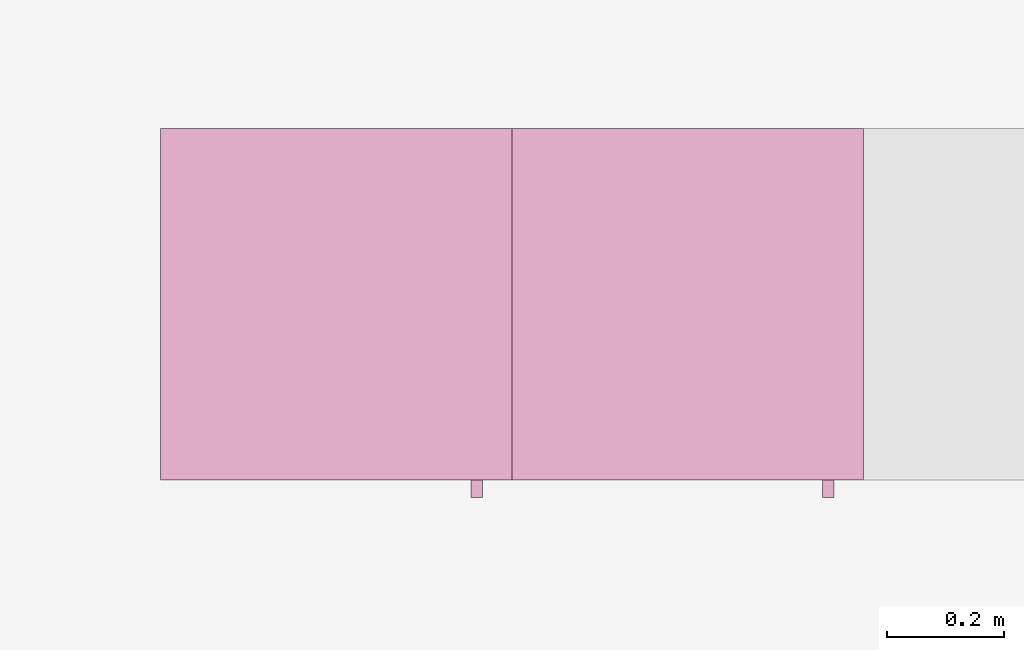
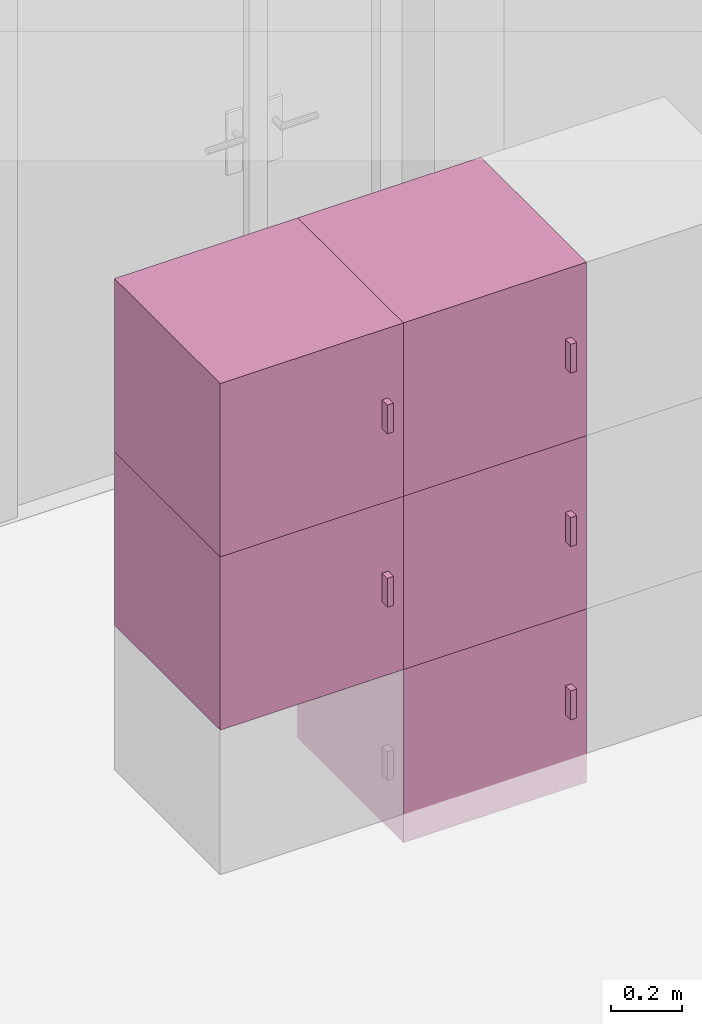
"""IFC4 building model written with IfcOpenShell, lengths in metres."""

from ifc_helpers import new_model, entity, si_unit, converted_unit, derived_unit, frame, origin, place, context, subcontext, project, spatial, faceted_brep, element, save


model = new_model("IFC4")

# Units and contexts
model_context = context("Model", 3, precision=1e-05, world=origin())
body_context = subcontext(model_context, "Body", "Model", "MODEL_VIEW")
ifc_project = project(units=[si_unit("LENGTHUNIT", "METRE"), si_unit("AREAUNIT", "SQUARE_METRE"), si_unit("VOLUMEUNIT", "CUBIC_METRE"), si_unit("MASSUNIT", "GRAM", prefix="KILO"), converted_unit("PLANEANGLEUNIT", "DEGREE", entity("IfcPlaneAngleMeasure", 0.0174532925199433), si_unit("PLANEANGLEUNIT", "RADIAN"), dimensions=[0, 0, 0, 0, 0, 0, 0]), derived_unit("THERMALTRANSMITTANCEUNIT", [(si_unit("POWERUNIT", "WATT"), 1), (si_unit("THERMODYNAMICTEMPERATUREUNIT", "KELVIN"), -1), (si_unit("LENGTHUNIT", "METRE"), -2)]), derived_unit("VOLUMETRICFLOWRATEUNIT", [(si_unit("LENGTHUNIT", "METRE"), 3), (converted_unit("TIMEUNIT", "hour", entity("IfcTimeMeasure", 3600.0), si_unit("TIMEUNIT", "SECOND"), dimensions=[0, 0, 1, 0, 0, 0, 0]), -1), (si_unit("LENGTHUNIT", "METRE"), -1)])], contexts=[model_context])

# Building, storeys
building_placement = place(None, origin())
building = spatial("IfcBuilding", under=ifc_project, at=building_placement, Name="HABITATGE PLURIFAMILIAR", CompositionType="ELEMENT")
storey_1_placement = place(building_placement, frame((0.0, 0.0, 15.28)))
storey_1 = spatial("IfcBuildingStorey", under=building, at=storey_1_placement, Name="PLANTA QUARTA", CompositionType="ELEMENT", Elevation=15.28)
storey_2_placement = place(storey_1_placement, frame((0.0, 0.0, 12.27)))
storey_2 = spatial("IfcBuildingStorey", under=storey_1, at=storey_2_placement, Name="NOU", CompositionType="PARTIAL")

# Furniture
furniture_1_placement = place(storey_2_placement, frame((406.462081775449, 21.5873137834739, -11.77)))
element("IfcFurniture", 1, at=furniture_1_placement, inside=storey_2, Name="Armai 60x60x60_P4", context=body_context, shape_type="Brep", body=[
    faceted_brep([(0.600000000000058, 0.0300000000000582, 0.02), (0.600000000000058, 0.0300000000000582, 0.0), (0.0, 0.0300000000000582, 0.0), (0.0, 0.0300000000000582, 0.02), (0.0, 0.630000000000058, 0.0), (0.0, 0.630000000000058, 0.02), (0.600000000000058, 0.630000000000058, 0.0), (0.600000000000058, 0.630000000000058, 0.02)], [[[0, 1, 2, 3]], [[3, 2, 4, 5]], [[5, 4, 6, 7]], [[7, 6, 1, 0]], [[0, 3, 5, 7]], [[1, 6, 4, 2]]], orient=[[False], [False], [False], [False], [False], [False]]),
    faceted_brep([(0.02, 0.63, 0.58), (0.02, 0.61, 0.58), (0.02, 0.61, 0.02), (0.02, 0.63, 0.02), (0.58, 0.61, 0.02), (0.58, 0.63, 0.02), (0.58, 0.61, 0.58), (0.58, 0.63, 0.58)], [[[0, 1, 2, 3]], [[3, 2, 4, 5]], [[5, 4, 6, 7]], [[7, 6, 1, 0]], [[0, 3, 5, 7]], [[1, 6, 4, 2]]], orient=[[False], [False], [False], [False], [False], [False]]),
    faceted_brep([(0.58, 0.0300000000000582, 0.58), (0.6, 0.0300000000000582, 0.58), (0.6, 0.0300000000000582, 0.02), (0.58, 0.0300000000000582, 0.02), (0.6, 0.630000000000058, 0.02), (0.58, 0.630000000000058, 0.02), (0.6, 0.630000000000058, 0.58), (0.58, 0.630000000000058, 0.58)], [[[0, 1, 2, 3]], [[3, 2, 4, 5]], [[5, 4, 6, 7]], [[7, 6, 1, 0]], [[0, 3, 5, 7]], [[1, 6, 4, 2]]], orient=[[False], [False], [False], [False], [False], [False]]),
    faceted_brep([(0.600000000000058, 0.0500000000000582, 0.58), (0.600000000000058, 0.0300000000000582, 0.58), (0.600000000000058, 0.0300000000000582, 0.02), (0.600000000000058, 0.0500000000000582, 0.02), (0.580000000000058, 0.0300000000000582, 0.02), (0.580000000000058, 0.0500000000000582, 0.02), (0.580000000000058, 0.0300000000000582, 0.58), (0.580000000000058, 0.0500000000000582, 0.58)], [[[0, 1, 2, 3]], [[3, 2, 4, 5]], [[5, 4, 6, 7]], [[7, 6, 1, 0]], [[0, 3, 5, 7]], [[1, 6, 4, 2]]], orient=[[False], [False], [False], [False], [False], [False]]),
    faceted_brep([(0.0, 0.0300000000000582, 0.58), (0.0200000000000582, 0.0300000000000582, 0.58), (0.0200000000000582, 0.0300000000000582, 0.02), (0.0, 0.0300000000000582, 0.02), (0.0200000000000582, 0.630000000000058, 0.02), (0.0, 0.630000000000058, 0.02), (0.0200000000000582, 0.630000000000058, 0.58), (0.0, 0.630000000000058, 0.58)], [[[0, 1, 2, 3]], [[3, 2, 4, 5]], [[5, 4, 6, 7]], [[7, 6, 1, 0]], [[0, 3, 5, 7]], [[1, 6, 4, 2]]], orient=[[False], [False], [False], [False], [False], [False]]),
    faceted_brep([(0.6, 0.03, 0.6), (0.6, 0.03, 0.58), (0.0, 0.03, 0.58), (0.0, 0.03, 0.6), (0.0, 0.63, 0.58), (0.0, 0.63, 0.6), (0.6, 0.63, 0.58), (0.6, 0.63, 0.6)], [[[0, 1, 2, 3]], [[3, 2, 4, 5]], [[5, 4, 6, 7]], [[7, 6, 1, 0]], [[0, 3, 5, 7]], [[1, 6, 4, 2]]], orient=[[False], [False], [False], [False], [False], [False]]),
    faceted_brep([(0.02, 0.05, 0.58), (0.02, 0.03, 0.58), (0.02, 0.03, 0.02), (0.02, 0.05, 0.02), (0.580000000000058, 0.03, 0.02), (0.580000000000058, 0.05, 0.02), (0.580000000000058, 0.03, 0.58), (0.580000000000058, 0.05, 0.58)], [[[0, 1, 2, 3]], [[3, 2, 4, 5]], [[5, 4, 6, 7]], [[7, 6, 1, 0]], [[0, 3, 5, 7]], [[1, 6, 4, 2]]], orient=[[False], [False], [False], [False], [False], [False]]),
    faceted_brep([(0.53, 0.03, 0.358064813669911), (0.53, 0.0, 0.358064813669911), (0.53, 0.0, 0.258064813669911), (0.53, 0.03, 0.258064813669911), (0.55, 0.0, 0.258064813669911), (0.55, 0.03, 0.258064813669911), (0.55, 0.0, 0.358064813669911), (0.55, 0.03, 0.358064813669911)], [[[0, 1, 2, 3]], [[3, 2, 4, 5]], [[5, 4, 6, 7]], [[7, 6, 1, 0]], [[0, 3, 5, 7]], [[1, 6, 4, 2]]], orient=[[False], [False], [False], [False], [False], [False]]),
])
furniture_2_placement = place(storey_2_placement, frame((405.862081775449, 21.5873137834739, -11.77)))
element("IfcFurniture", 2, at=furniture_2_placement, inside=storey_2, Name="Armai 60x60x60_P4", context=body_context, shape_type="Brep", body=[
    faceted_brep([(0.600000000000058, 0.0300000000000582, 0.02), (0.600000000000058, 0.0300000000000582, 0.0), (0.0, 0.0300000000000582, 0.0), (0.0, 0.0300000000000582, 0.02), (0.0, 0.630000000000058, 0.0), (0.0, 0.630000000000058, 0.02), (0.600000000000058, 0.630000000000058, 0.0), (0.600000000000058, 0.630000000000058, 0.02)], [[[0, 1, 2, 3]], [[3, 2, 4, 5]], [[5, 4, 6, 7]], [[7, 6, 1, 0]], [[0, 3, 5, 7]], [[1, 6, 4, 2]]], orient=[[False], [False], [False], [False], [False], [False]]),
    faceted_brep([(0.02, 0.63, 0.58), (0.02, 0.61, 0.58), (0.02, 0.61, 0.02), (0.02, 0.63, 0.02), (0.58, 0.61, 0.02), (0.58, 0.63, 0.02), (0.58, 0.61, 0.58), (0.58, 0.63, 0.58)], [[[0, 1, 2, 3]], [[3, 2, 4, 5]], [[5, 4, 6, 7]], [[7, 6, 1, 0]], [[0, 3, 5, 7]], [[1, 6, 4, 2]]], orient=[[False], [False], [False], [False], [False], [False]]),
    faceted_brep([(0.58, 0.0300000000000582, 0.58), (0.6, 0.0300000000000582, 0.58), (0.6, 0.0300000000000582, 0.02), (0.58, 0.0300000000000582, 0.02), (0.6, 0.630000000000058, 0.02), (0.58, 0.630000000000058, 0.02), (0.6, 0.630000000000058, 0.58), (0.58, 0.630000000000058, 0.58)], [[[0, 1, 2, 3]], [[3, 2, 4, 5]], [[5, 4, 6, 7]], [[7, 6, 1, 0]], [[0, 3, 5, 7]], [[1, 6, 4, 2]]], orient=[[False], [False], [False], [False], [False], [False]]),
    faceted_brep([(0.600000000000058, 0.0500000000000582, 0.58), (0.600000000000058, 0.0300000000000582, 0.58), (0.600000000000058, 0.0300000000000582, 0.02), (0.600000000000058, 0.0500000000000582, 0.02), (0.580000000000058, 0.0300000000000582, 0.02), (0.580000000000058, 0.0500000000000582, 0.02), (0.580000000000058, 0.0300000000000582, 0.58), (0.580000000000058, 0.0500000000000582, 0.58)], [[[0, 1, 2, 3]], [[3, 2, 4, 5]], [[5, 4, 6, 7]], [[7, 6, 1, 0]], [[0, 3, 5, 7]], [[1, 6, 4, 2]]], orient=[[False], [False], [False], [False], [False], [False]]),
    faceted_brep([(0.0, 0.0300000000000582, 0.58), (0.0200000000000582, 0.0300000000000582, 0.58), (0.0200000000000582, 0.0300000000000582, 0.02), (0.0, 0.0300000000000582, 0.02), (0.0200000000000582, 0.630000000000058, 0.02), (0.0, 0.630000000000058, 0.02), (0.0200000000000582, 0.630000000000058, 0.58), (0.0, 0.630000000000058, 0.58)], [[[0, 1, 2, 3]], [[3, 2, 4, 5]], [[5, 4, 6, 7]], [[7, 6, 1, 0]], [[0, 3, 5, 7]], [[1, 6, 4, 2]]], orient=[[False], [False], [False], [False], [False], [False]]),
    faceted_brep([(0.6, 0.03, 0.6), (0.6, 0.03, 0.58), (0.0, 0.03, 0.58), (0.0, 0.03, 0.6), (0.0, 0.63, 0.58), (0.0, 0.63, 0.6), (0.6, 0.63, 0.58), (0.6, 0.63, 0.6)], [[[0, 1, 2, 3]], [[3, 2, 4, 5]], [[5, 4, 6, 7]], [[7, 6, 1, 0]], [[0, 3, 5, 7]], [[1, 6, 4, 2]]], orient=[[False], [False], [False], [False], [False], [False]]),
    faceted_brep([(0.02, 0.05, 0.58), (0.02, 0.03, 0.58), (0.02, 0.03, 0.02), (0.02, 0.05, 0.02), (0.580000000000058, 0.03, 0.02), (0.580000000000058, 0.05, 0.02), (0.580000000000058, 0.03, 0.58), (0.580000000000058, 0.05, 0.58)], [[[0, 1, 2, 3]], [[3, 2, 4, 5]], [[5, 4, 6, 7]], [[7, 6, 1, 0]], [[0, 3, 5, 7]], [[1, 6, 4, 2]]], orient=[[False], [False], [False], [False], [False], [False]]),
    faceted_brep([(0.53, 0.03, 0.358064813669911), (0.53, 0.0, 0.358064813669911), (0.53, 0.0, 0.258064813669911), (0.53, 0.03, 0.258064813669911), (0.55, 0.0, 0.258064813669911), (0.55, 0.03, 0.258064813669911), (0.55, 0.0, 0.358064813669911), (0.55, 0.03, 0.358064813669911)], [[[0, 1, 2, 3]], [[3, 2, 4, 5]], [[5, 4, 6, 7]], [[7, 6, 1, 0]], [[0, 3, 5, 7]], [[1, 6, 4, 2]]], orient=[[False], [False], [False], [False], [False], [False]]),
])
furniture_3_placement = place(storey_2_placement, frame((406.462081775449, 21.5873137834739, -11.17)))
element("IfcFurniture", 3, at=furniture_3_placement, inside=storey_2, Name="Armai 60x60x60_P4", context=body_context, shape_type="Brep", body=[
    faceted_brep([(0.600000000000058, 0.0300000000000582, 0.02), (0.600000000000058, 0.0300000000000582, 0.0), (0.0, 0.0300000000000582, 0.0), (0.0, 0.0300000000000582, 0.02), (0.0, 0.630000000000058, 0.0), (0.0, 0.630000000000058, 0.02), (0.600000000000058, 0.630000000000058, 0.0), (0.600000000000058, 0.630000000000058, 0.02)], [[[0, 1, 2, 3]], [[3, 2, 4, 5]], [[5, 4, 6, 7]], [[7, 6, 1, 0]], [[0, 3, 5, 7]], [[1, 6, 4, 2]]], orient=[[False], [False], [False], [False], [False], [False]]),
    faceted_brep([(0.02, 0.63, 0.58), (0.02, 0.61, 0.58), (0.02, 0.61, 0.02), (0.02, 0.63, 0.02), (0.58, 0.61, 0.02), (0.58, 0.63, 0.02), (0.58, 0.61, 0.58), (0.58, 0.63, 0.58)], [[[0, 1, 2, 3]], [[3, 2, 4, 5]], [[5, 4, 6, 7]], [[7, 6, 1, 0]], [[0, 3, 5, 7]], [[1, 6, 4, 2]]], orient=[[False], [False], [False], [False], [False], [False]]),
    faceted_brep([(0.58, 0.0300000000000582, 0.58), (0.6, 0.0300000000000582, 0.58), (0.6, 0.0300000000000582, 0.02), (0.58, 0.0300000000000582, 0.02), (0.6, 0.630000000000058, 0.02), (0.58, 0.630000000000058, 0.02), (0.6, 0.630000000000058, 0.58), (0.58, 0.630000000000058, 0.58)], [[[0, 1, 2, 3]], [[3, 2, 4, 5]], [[5, 4, 6, 7]], [[7, 6, 1, 0]], [[0, 3, 5, 7]], [[1, 6, 4, 2]]], orient=[[False], [False], [False], [False], [False], [False]]),
    faceted_brep([(0.600000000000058, 0.0500000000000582, 0.58), (0.600000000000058, 0.0300000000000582, 0.58), (0.600000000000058, 0.0300000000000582, 0.02), (0.600000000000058, 0.0500000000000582, 0.02), (0.580000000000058, 0.0300000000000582, 0.02), (0.580000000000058, 0.0500000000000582, 0.02), (0.580000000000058, 0.0300000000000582, 0.58), (0.580000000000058, 0.0500000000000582, 0.58)], [[[0, 1, 2, 3]], [[3, 2, 4, 5]], [[5, 4, 6, 7]], [[7, 6, 1, 0]], [[0, 3, 5, 7]], [[1, 6, 4, 2]]], orient=[[False], [False], [False], [False], [False], [False]]),
    faceted_brep([(0.0, 0.0300000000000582, 0.58), (0.0200000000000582, 0.0300000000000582, 0.58), (0.0200000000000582, 0.0300000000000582, 0.02), (0.0, 0.0300000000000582, 0.02), (0.0200000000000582, 0.630000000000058, 0.02), (0.0, 0.630000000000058, 0.02), (0.0200000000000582, 0.630000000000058, 0.58), (0.0, 0.630000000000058, 0.58)], [[[0, 1, 2, 3]], [[3, 2, 4, 5]], [[5, 4, 6, 7]], [[7, 6, 1, 0]], [[0, 3, 5, 7]], [[1, 6, 4, 2]]], orient=[[False], [False], [False], [False], [False], [False]]),
    faceted_brep([(0.6, 0.03, 0.6), (0.6, 0.03, 0.58), (0.0, 0.03, 0.58), (0.0, 0.03, 0.6), (0.0, 0.63, 0.58), (0.0, 0.63, 0.6), (0.6, 0.63, 0.58), (0.6, 0.63, 0.6)], [[[0, 1, 2, 3]], [[3, 2, 4, 5]], [[5, 4, 6, 7]], [[7, 6, 1, 0]], [[0, 3, 5, 7]], [[1, 6, 4, 2]]], orient=[[False], [False], [False], [False], [False], [False]]),
    faceted_brep([(0.02, 0.05, 0.58), (0.02, 0.03, 0.58), (0.02, 0.03, 0.02), (0.02, 0.05, 0.02), (0.580000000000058, 0.03, 0.02), (0.580000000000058, 0.05, 0.02), (0.580000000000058, 0.03, 0.58), (0.580000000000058, 0.05, 0.58)], [[[0, 1, 2, 3]], [[3, 2, 4, 5]], [[5, 4, 6, 7]], [[7, 6, 1, 0]], [[0, 3, 5, 7]], [[1, 6, 4, 2]]], orient=[[False], [False], [False], [False], [False], [False]]),
    faceted_brep([(0.53, 0.03, 0.358064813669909), (0.53, 0.0, 0.358064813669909), (0.53, 0.0, 0.258064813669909), (0.53, 0.03, 0.258064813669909), (0.55, 0.0, 0.258064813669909), (0.55, 0.03, 0.258064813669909), (0.55, 0.0, 0.358064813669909), (0.55, 0.03, 0.358064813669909)], [[[0, 1, 2, 3]], [[3, 2, 4, 5]], [[5, 4, 6, 7]], [[7, 6, 1, 0]], [[0, 3, 5, 7]], [[1, 6, 4, 2]]], orient=[[False], [False], [False], [False], [False], [False]]),
])
furniture_4_placement = place(storey_2_placement, frame((405.862081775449, 21.5873137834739, -11.17)))
element("IfcFurniture", 4, at=furniture_4_placement, inside=storey_2, Name="Armai 60x60x60_P4", context=body_context, shape_type="Brep", body=[
    faceted_brep([(0.600000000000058, 0.0300000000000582, 0.02), (0.600000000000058, 0.0300000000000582, 0.0), (0.0, 0.0300000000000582, 0.0), (0.0, 0.0300000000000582, 0.02), (0.0, 0.630000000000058, 0.0), (0.0, 0.630000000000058, 0.02), (0.600000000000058, 0.630000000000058, 0.0), (0.600000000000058, 0.630000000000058, 0.02)], [[[0, 1, 2, 3]], [[3, 2, 4, 5]], [[5, 4, 6, 7]], [[7, 6, 1, 0]], [[0, 3, 5, 7]], [[1, 6, 4, 2]]], orient=[[False], [False], [False], [False], [False], [False]]),
    faceted_brep([(0.02, 0.63, 0.58), (0.02, 0.61, 0.58), (0.02, 0.61, 0.02), (0.02, 0.63, 0.02), (0.58, 0.61, 0.02), (0.58, 0.63, 0.02), (0.58, 0.61, 0.58), (0.58, 0.63, 0.58)], [[[0, 1, 2, 3]], [[3, 2, 4, 5]], [[5, 4, 6, 7]], [[7, 6, 1, 0]], [[0, 3, 5, 7]], [[1, 6, 4, 2]]], orient=[[False], [False], [False], [False], [False], [False]]),
    faceted_brep([(0.58, 0.0300000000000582, 0.58), (0.6, 0.0300000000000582, 0.58), (0.6, 0.0300000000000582, 0.02), (0.58, 0.0300000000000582, 0.02), (0.6, 0.630000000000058, 0.02), (0.58, 0.630000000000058, 0.02), (0.6, 0.630000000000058, 0.58), (0.58, 0.630000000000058, 0.58)], [[[0, 1, 2, 3]], [[3, 2, 4, 5]], [[5, 4, 6, 7]], [[7, 6, 1, 0]], [[0, 3, 5, 7]], [[1, 6, 4, 2]]], orient=[[False], [False], [False], [False], [False], [False]]),
    faceted_brep([(0.600000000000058, 0.0500000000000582, 0.58), (0.600000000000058, 0.0300000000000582, 0.58), (0.600000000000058, 0.0300000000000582, 0.02), (0.600000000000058, 0.0500000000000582, 0.02), (0.580000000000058, 0.0300000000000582, 0.02), (0.580000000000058, 0.0500000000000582, 0.02), (0.580000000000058, 0.0300000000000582, 0.58), (0.580000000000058, 0.0500000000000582, 0.58)], [[[0, 1, 2, 3]], [[3, 2, 4, 5]], [[5, 4, 6, 7]], [[7, 6, 1, 0]], [[0, 3, 5, 7]], [[1, 6, 4, 2]]], orient=[[False], [False], [False], [False], [False], [False]]),
    faceted_brep([(0.0, 0.0300000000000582, 0.58), (0.0200000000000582, 0.0300000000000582, 0.58), (0.0200000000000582, 0.0300000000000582, 0.02), (0.0, 0.0300000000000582, 0.02), (0.0200000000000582, 0.630000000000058, 0.02), (0.0, 0.630000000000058, 0.02), (0.0200000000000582, 0.630000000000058, 0.58), (0.0, 0.630000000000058, 0.58)], [[[0, 1, 2, 3]], [[3, 2, 4, 5]], [[5, 4, 6, 7]], [[7, 6, 1, 0]], [[0, 3, 5, 7]], [[1, 6, 4, 2]]], orient=[[False], [False], [False], [False], [False], [False]]),
    faceted_brep([(0.6, 0.03, 0.6), (0.6, 0.03, 0.58), (0.0, 0.03, 0.58), (0.0, 0.03, 0.6), (0.0, 0.63, 0.58), (0.0, 0.63, 0.6), (0.6, 0.63, 0.58), (0.6, 0.63, 0.6)], [[[0, 1, 2, 3]], [[3, 2, 4, 5]], [[5, 4, 6, 7]], [[7, 6, 1, 0]], [[0, 3, 5, 7]], [[1, 6, 4, 2]]], orient=[[False], [False], [False], [False], [False], [False]]),
    faceted_brep([(0.02, 0.05, 0.58), (0.02, 0.03, 0.58), (0.02, 0.03, 0.02), (0.02, 0.05, 0.02), (0.580000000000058, 0.03, 0.02), (0.580000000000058, 0.05, 0.02), (0.580000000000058, 0.03, 0.58), (0.580000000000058, 0.05, 0.58)], [[[0, 1, 2, 3]], [[3, 2, 4, 5]], [[5, 4, 6, 7]], [[7, 6, 1, 0]], [[0, 3, 5, 7]], [[1, 6, 4, 2]]], orient=[[False], [False], [False], [False], [False], [False]]),
    faceted_brep([(0.53, 0.03, 0.358064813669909), (0.53, 0.0, 0.358064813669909), (0.53, 0.0, 0.258064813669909), (0.53, 0.03, 0.258064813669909), (0.55, 0.0, 0.258064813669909), (0.55, 0.03, 0.258064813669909), (0.55, 0.0, 0.358064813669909), (0.55, 0.03, 0.358064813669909)], [[[0, 1, 2, 3]], [[3, 2, 4, 5]], [[5, 4, 6, 7]], [[7, 6, 1, 0]], [[0, 3, 5, 7]], [[1, 6, 4, 2]]], orient=[[False], [False], [False], [False], [False], [False]]),
])
furniture_5_placement = place(storey_2_placement, frame((406.462081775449, 21.5873137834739, -12.37)))
element("IfcFurniture", 5, at=furniture_5_placement, inside=storey_2, Name="Armai 60x60x60_P4", context=body_context, shape_type="Brep", body=[
    faceted_brep([(0.600000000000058, 0.0300000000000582, 0.02), (0.600000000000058, 0.0300000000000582, 0.0), (0.0, 0.0300000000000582, 0.0), (0.0, 0.0300000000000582, 0.02), (0.0, 0.630000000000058, 0.0), (0.0, 0.630000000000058, 0.02), (0.600000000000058, 0.630000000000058, 0.0), (0.600000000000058, 0.630000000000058, 0.02)], [[[0, 1, 2, 3]], [[3, 2, 4, 5]], [[5, 4, 6, 7]], [[7, 6, 1, 0]], [[0, 3, 5, 7]], [[1, 6, 4, 2]]], orient=[[False], [False], [False], [False], [False], [False]]),
    faceted_brep([(0.02, 0.63, 0.58), (0.02, 0.61, 0.58), (0.02, 0.61, 0.02), (0.02, 0.63, 0.02), (0.58, 0.61, 0.02), (0.58, 0.63, 0.02), (0.58, 0.61, 0.58), (0.58, 0.63, 0.58)], [[[0, 1, 2, 3]], [[3, 2, 4, 5]], [[5, 4, 6, 7]], [[7, 6, 1, 0]], [[0, 3, 5, 7]], [[1, 6, 4, 2]]], orient=[[False], [False], [False], [False], [False], [False]]),
    faceted_brep([(0.58, 0.0300000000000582, 0.58), (0.6, 0.0300000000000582, 0.58), (0.6, 0.0300000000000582, 0.02), (0.58, 0.0300000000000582, 0.02), (0.6, 0.630000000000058, 0.02), (0.58, 0.630000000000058, 0.02), (0.6, 0.630000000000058, 0.58), (0.58, 0.630000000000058, 0.58)], [[[0, 1, 2, 3]], [[3, 2, 4, 5]], [[5, 4, 6, 7]], [[7, 6, 1, 0]], [[0, 3, 5, 7]], [[1, 6, 4, 2]]], orient=[[False], [False], [False], [False], [False], [False]]),
    faceted_brep([(0.600000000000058, 0.0500000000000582, 0.58), (0.600000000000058, 0.0300000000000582, 0.58), (0.600000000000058, 0.0300000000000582, 0.02), (0.600000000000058, 0.0500000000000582, 0.02), (0.580000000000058, 0.0300000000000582, 0.02), (0.580000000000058, 0.0500000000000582, 0.02), (0.580000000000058, 0.0300000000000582, 0.58), (0.580000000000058, 0.0500000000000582, 0.58)], [[[0, 1, 2, 3]], [[3, 2, 4, 5]], [[5, 4, 6, 7]], [[7, 6, 1, 0]], [[0, 3, 5, 7]], [[1, 6, 4, 2]]], orient=[[False], [False], [False], [False], [False], [False]]),
    faceted_brep([(0.0, 0.0300000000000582, 0.58), (0.0200000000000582, 0.0300000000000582, 0.58), (0.0200000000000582, 0.0300000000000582, 0.02), (0.0, 0.0300000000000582, 0.02), (0.0200000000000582, 0.630000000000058, 0.02), (0.0, 0.630000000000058, 0.02), (0.0200000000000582, 0.630000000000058, 0.58), (0.0, 0.630000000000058, 0.58)], [[[0, 1, 2, 3]], [[3, 2, 4, 5]], [[5, 4, 6, 7]], [[7, 6, 1, 0]], [[0, 3, 5, 7]], [[1, 6, 4, 2]]], orient=[[False], [False], [False], [False], [False], [False]]),
    faceted_brep([(0.6, 0.03, 0.6), (0.6, 0.03, 0.58), (0.0, 0.03, 0.58), (0.0, 0.03, 0.6), (0.0, 0.63, 0.58), (0.0, 0.63, 0.6), (0.6, 0.63, 0.58), (0.6, 0.63, 0.6)], [[[0, 1, 2, 3]], [[3, 2, 4, 5]], [[5, 4, 6, 7]], [[7, 6, 1, 0]], [[0, 3, 5, 7]], [[1, 6, 4, 2]]], orient=[[False], [False], [False], [False], [False], [False]]),
    faceted_brep([(0.02, 0.05, 0.58), (0.02, 0.03, 0.58), (0.02, 0.03, 0.02), (0.02, 0.05, 0.02), (0.580000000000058, 0.03, 0.02), (0.580000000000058, 0.05, 0.02), (0.580000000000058, 0.03, 0.58), (0.580000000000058, 0.05, 0.58)], [[[0, 1, 2, 3]], [[3, 2, 4, 5]], [[5, 4, 6, 7]], [[7, 6, 1, 0]], [[0, 3, 5, 7]], [[1, 6, 4, 2]]], orient=[[False], [False], [False], [False], [False], [False]]),
    faceted_brep([(0.53, 0.03, 0.358064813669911), (0.53, 0.0, 0.358064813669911), (0.53, 0.0, 0.258064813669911), (0.53, 0.03, 0.258064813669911), (0.55, 0.0, 0.258064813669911), (0.55, 0.03, 0.258064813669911), (0.55, 0.0, 0.358064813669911), (0.55, 0.03, 0.358064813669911)], [[[0, 1, 2, 3]], [[3, 2, 4, 5]], [[5, 4, 6, 7]], [[7, 6, 1, 0]], [[0, 3, 5, 7]], [[1, 6, 4, 2]]], orient=[[False], [False], [False], [False], [False], [False]]),
])

save(model, "model.ifc")
